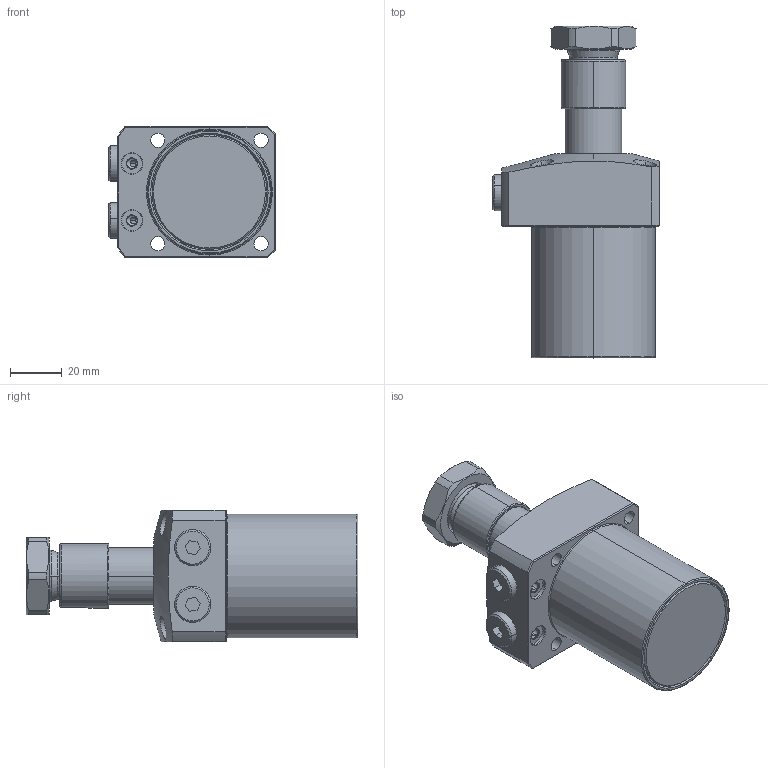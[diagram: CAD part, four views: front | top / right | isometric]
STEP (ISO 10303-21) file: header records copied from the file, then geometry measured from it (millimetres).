
FILE_DESCRIPTION(/* description */ (''),/* implementation_level */ '2;1');
FILE_NAME(/* name */ 'KTRC48-L.stp',/* time_stamp */ '2022-11-17T14:47:49+08:00',/* author */ (''),/* organization */ (''),/* preprocessor_version */ 'ST-DEVELOPER v16.7',/* originating_system */ 'SIEMENS PLM Software NX 12.0',/* authorisation */ '');
FILE_SCHEMA (('AP203_CONFIGURATION_CONTROLLED_3D_DESIGN_OF_MECHANICAL_PARTS_AND_ASSEMBLIES_MIM_LF { 1 0 10303 403 2 1 2}'));
Length unit declared in the file: millimetre
Products named in the file (6): KTRC48-L-02; KTRC48-L-04; KTRC48-L-01; KTRC48-L-03; KTRC48-L-05; LHA0480-CL_step
Assembly tree (6 placements, depth 2):
  LHA0480-CL_step
    KTRC48-L-05  x2
    KTRC48-L-03
    KTRC48-L-01
    KTRC48-L-04
    KTRC48-L-02
Bounding box: 64.5 x 128.5 x 51 mm (x, y, z)
Volume: 192312.5 mm3; surface area: 33208.8 mm2
Topology: 6 solids, 6 shells, 229 faces, 565 edges, 359 vertices
Faces by surface type: cylinder 87, plane 75, cone 49, torus 16, sphere 2
Entity records: 7826 total; most frequent: CARTESIAN_POINT 2008, DIRECTION 1081, ORIENTED_EDGE 1070, EDGE_CURVE 535, AXIS2_PLACEMENT_3D 439, VERTEX_POINT 341, EDGE_LOOP 242, ADVANCED_FACE 216
